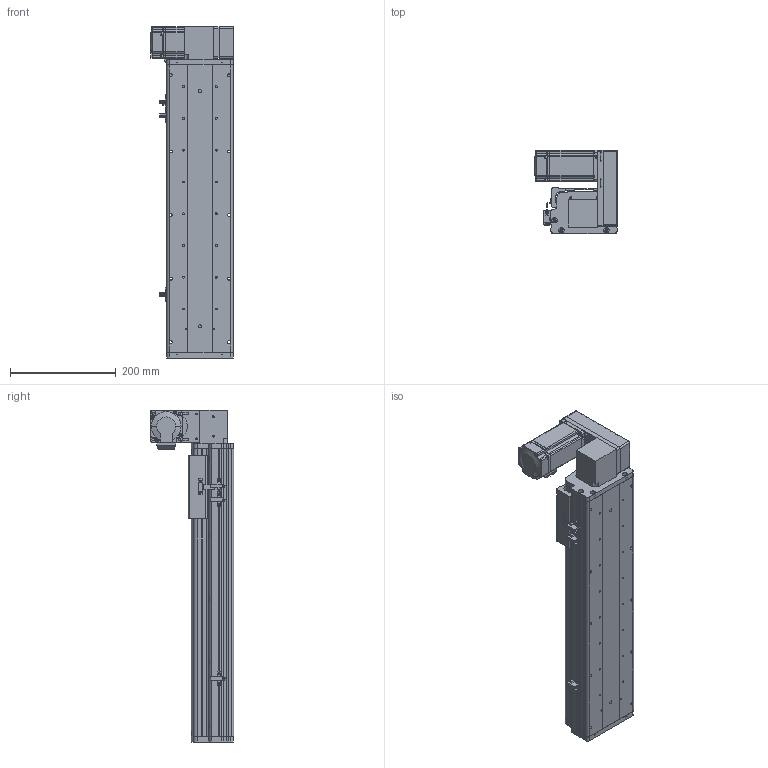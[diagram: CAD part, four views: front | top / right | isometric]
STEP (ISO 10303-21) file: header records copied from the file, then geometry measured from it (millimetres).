
FILE_DESCRIPTION (( 'STEP AP214' ), '1' );
FILE_NAME ('KSD125B-S350-MLU-CM.STEP', '2017-10-21T03:12:54', ( '微软用户' ), ( '微软中国' ), 'SwSTEP 2.0', 'SolidWorks 2014', '' );
FILE_SCHEMA (( 'AUTOMOTIVE_DESIGN' ));
Length unit declared in the file: millimetre
Products named in the file (17): 悵誘欶奻狟殏; 100宽马达安装板连板上下折丝杆同步带; HTPA30S3M150_A_H6_a佪裝蚚; HTPA30S3M150_A_H6_a萇儂蚚; 100宽马达安装板同步带左; KSD125模组350行程同步带-防尘盖; 125模组350行程同步带-底板; MHMD042G1CA_2_03; KSD125模组同步带-防撞垫2; 覜茼え68遵圉猾敕; U倰嫖萇假蚾璃; U倰嫖萇EEㄜSX672; KSD125模组同步带-防撞垫1; 前端板-125宽模组同步带; 125模组同步带-尾端板1; KSD125模组同步带-滑动座1; KSD125B-S350-MLU-CM
Assembly tree (20 placements, depth 2):
  KSD125B-S350-MLU-CM
    KSD125模组同步带-滑动座1
    125模组同步带-尾端板1
    前端板-125宽模组同步带
    KSD125模组同步带-防撞垫1
    U倰嫖萇EEㄜSX672  x3
    U倰嫖萇假蚾璃  x3
    覜茼え68遵圉猾敕
    KSD125模组同步带-防撞垫2
    MHMD042G1CA_2_03
    125模组350行程同步带-底板
    KSD125模组350行程同步带-防尘盖
    100宽马达安装板同步带左
    HTPA30S3M150_A_H6_a萇儂蚚
    HTPA30S3M150_A_H6_a佪裝蚚
    100宽马达安装板连板上下折丝杆同步带
    悵誘欶奻狟殏
Bounding box: 155 x 157.5 x 627 mm (x, y, z)
Volume: 2190873.6 mm3; surface area: 773617.4 mm2
Topology: 19 solids, 22 shells, 2217 faces, 6415 edges, 4238 vertices
Faces by surface type: cylinder 1372, plane 718, cone 105, bspline 22
Entity records: 78401 total; most frequent: CARTESIAN_POINT 15525, DIRECTION 12200, ORIENTED_EDGE 11350, EDGE_CURVE 5753, AXIS2_PLACEMENT_3D 4701, VERTEX_POINT 3830, LINE 2798, VECTOR 2798
